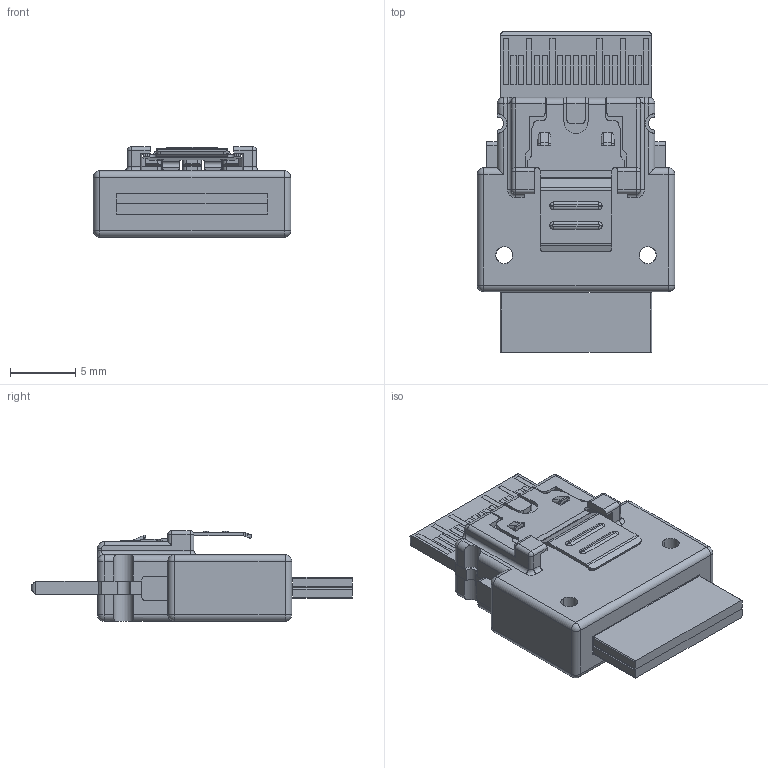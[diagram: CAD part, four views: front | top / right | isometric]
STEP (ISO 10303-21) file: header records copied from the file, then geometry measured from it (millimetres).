
FILE_DESCRIPTION((''),'2;1');
FILE_NAME('2_ASM','2016-06-28T',('louischan'),(''),'PRO/ENGINEER BY PARAMETRIC TECHNOLOGY CORPORATION, 2013230','PRO/ENGINEER BY PARAMETRIC TECHNOLOGY CORPORATION, 2013230','');
FILE_SCHEMA(('CONFIG_CONTROL_DESIGN'));
Length unit declared in the file: millimetre
Products named in the file (6): PLUG_PCB_3; OVERMOLD_7; 31AWG_RIBBON_CABLE_2; LATCH_20150312_2; PLUG_ASM_12_ASM; 2_ASM
Assembly tree (6 placements, depth 3):
  2_ASM
    PLUG_ASM_12_ASM
      PLUG_PCB_3
      OVERMOLD_7
      31AWG_RIBBON_CABLE_2  x2
      LATCH_20150312_2
Bounding box: 15.15 x 24.6 x 6.95 mm (x, y, z)
Volume: 974.2 mm3; surface area: 1855.4 mm2
Topology: 5 solids, 5 shells, 786 faces, 2077 edges, 1342 vertices
Faces by surface type: plane 525, cylinder 150, extrusion 73, sphere 16, bspline 12, torus 10
Entity records: 24765 total; most frequent: CARTESIAN_POINT 5586, ORIENTED_EDGE 4074, DIRECTION 3648, EDGE_CURVE 2037, VECTOR 1590, LINE 1517, VERTEX_POINT 1326, AXIS2_PLACEMENT_3D 1029
